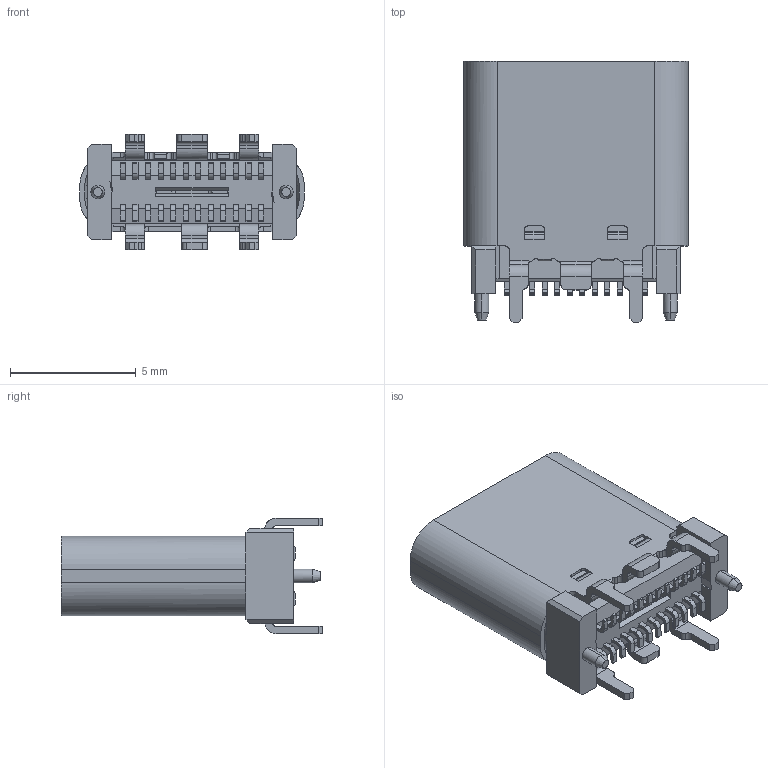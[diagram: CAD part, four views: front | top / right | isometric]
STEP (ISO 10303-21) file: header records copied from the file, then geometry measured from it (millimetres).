
FILE_DESCRIPTION(('STEP AP242'),'1');
FILE_NAME('usb4115-03-c.stp','2024-12-27T03:56:00',('TraceParts'),('TraceParts S.A.'),'Spatial InterOp 3D',' ',' ');
FILE_SCHEMA(('AP242_MANAGED_MODEL_BASED_3D_ENGINEERING_MIM_LF {1 0 10303 442 1 1 4}'));
Length unit declared in the file: millimetre
Products named in the file (1): usb4115-03-c
Bounding box: 8.94 x 10.4 x 4.6 mm (x, y, z)
Volume: 152.1 mm3; surface area: 625.5 mm2
Topology: 1 solids, 40 shells, 1183 faces, 3154 edges, 2080 vertices
Faces by surface type: plane 937, cylinder 214, cone 16, bspline 16
Entity records: 47607 total; most frequent: CARTESIAN_POINT 9967, ORIENTED_EDGE 6308, DIRECTION 4914, EDGE_CURVE 3154, LINE 2388, VECTOR 2388, VERTEX_POINT 2080, AXIS2_PLACEMENT_3D 1263
